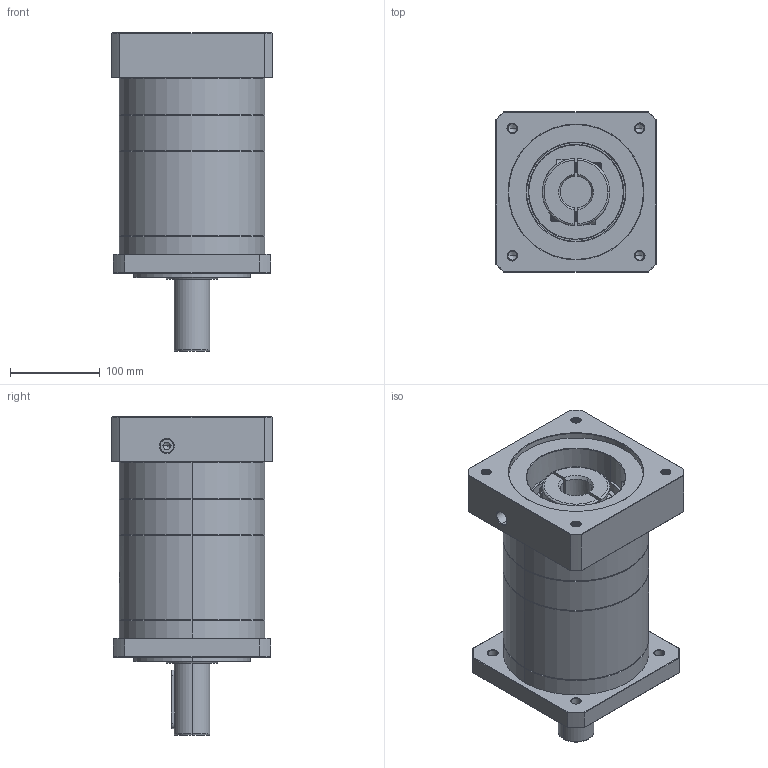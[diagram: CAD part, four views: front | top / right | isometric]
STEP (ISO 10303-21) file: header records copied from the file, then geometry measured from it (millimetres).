
FILE_DESCRIPTION (( 'STEP AP214' ), '1' );
FILE_NAME ('ZF160A-D40-L3-P2-35-150-200-M12.step', '2023-09-03T07:00:29', ( '' ), ( '' ), 'SwSTEP 2.0', 'SolidWorks 2016', '' );
FILE_SCHEMA (( 'AUTOMOTIVE_DESIGN' ));
Length unit declared in the file: millimetre
Products named in the file (1): ZF160A-D40-L3-P2-35-150-200-M12
Bounding box: 178 x 178 x 354.2 mm (x, y, z)
Volume: 5900588.4 mm3; surface area: 382785.2 mm2
Topology: 6 solids, 6 shells, 2193 faces, 5920 edges, 3832 vertices
Faces by surface type: plane 1017, cylinder 413, bspline 411, cone 330, torus 22
Entity records: 125858 total; most frequent: CARTESIAN_POINT 51729, ORIENTED_EDGE 11780, DIRECTION 8634, EDGE_CURVE 5890, VERTEX_POINT 3832, LINE 3060, VECTOR 3060, AXIS2_PLACEMENT_3D 2787
